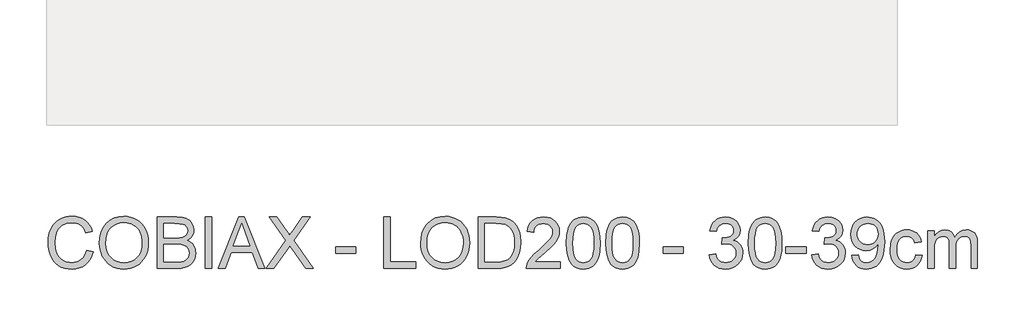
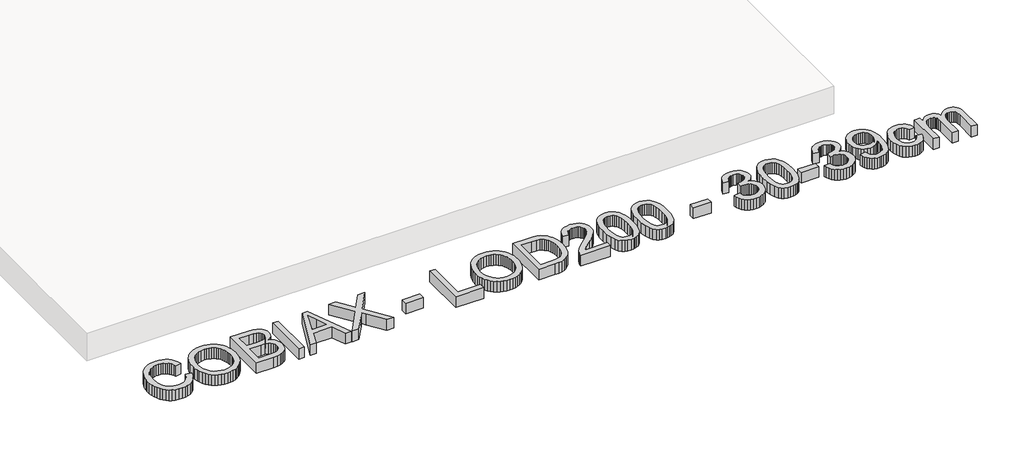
# One storey, part 3 of 6: 1 proxy.
"""IFC4 building model written with IfcOpenShell, lengths in millimetres."""

from ifc_helpers import new_model, si_unit, origin, origin_with_axes, place, context, project, spatial, polyline, outline, extrude, element, save

model = new_model("IFC4")

# Units and contexts
model_context = context("Model", 3, world=origin())
ifc_project = project(units=[si_unit("LENGTHUNIT", "METRE", prefix="MILLI")], contexts=[model_context])

# Site, building, storey
site = spatial("IfcSite", under=ifc_project)
building = spatial("IfcBuilding", under=site)
storey = spatial("IfcBuildingStorey", under=building, Name="COBIAX Slabs", Elevation=0.0)

# Proxy
placement = place(None, origin())
element("IfcBuildingElementProxy", 1, Name="600mm Arial", ObjectType="600mm Arial", at=placement, inside=storey, context=model_context, shape_type="SweptSolid", body=[
    extrude(outline(polyline([(9798.2153953, -6620.9127725), (9873.5576279, -6640.3369419), (9858.64921, -6687.1913125), (9838.7927794, -6728.13198), (9813.9883358, -6763.1589445), (9784.2358795, -6792.2722059), (9750.2067949, -6815.1590645), (9712.5724668, -6831.5068207), (9671.3328952, -6841.3154744), (9626.4880799, -6844.5850256), (9580.5442173, -6842.1110192), (9539.097712, -6834.6889999), (9502.1485641, -6822.3189678), (9469.6967736, -6805.0009229), (9441.2962836, -6782.9923826), (9416.5010371, -6756.5508642), (9395.3110342, -6725.6763677), (9377.7262748, -6690.3688932), (9363.9169044, -6652.155151), (9354.0530684, -6612.5618512), (9348.1347668, -6571.588994), (9346.1619996, -6529.2365793), (9348.3922842, -6483.7939559), (9355.083138, -6441.3495707), (9366.234561, -6401.9034238), (9381.8465531, -6365.4555151), (9401.5696266, -6332.6082514), (9425.0542935, -6303.9640396), (9452.3005538, -6279.5228795), (9483.3084074, -6259.2847713), (9517.0247923, -6243.4152617), (9552.3966461, -6232.0798977), (9589.4239689, -6225.2786793), (9628.1067607, -6223.0116065), (9671.1995379, -6225.9454655), (9710.7146627, -6234.7470422), (9746.6521351, -6249.4163368), (9779.0119551, -6269.9533491), (9807.2606938, -6295.8154534), (9830.8649224, -6326.4600236), (9849.8246407, -6361.8870597), (9864.1398488, -6402.0965618), (9788.7976162, -6420.0492032), (9776.9334219, -6390.420907), (9762.6779946, -6365.1060272), (9746.0313343, -6344.1045638), (9726.993441, -6327.4165168), (9705.4539502, -6314.7015953), (9681.3024972, -6305.6195086), (9654.5390821, -6300.1702565), (9625.1637048, -6298.3538392), (9591.3645465, -6300.3679931), (9560.4532618, -6306.4104549), (9532.4298508, -6316.4812245), (9507.2943135, -6330.5803019), (9485.3639481, -6348.0730908), (9466.9560527, -6368.3249946), (9452.0706275, -6391.3360134), (9440.7076724, -6417.1061472), (9426.3050923, -6472.2516583), (9421.5042322, -6529.0894265), (9427.1880091, -6598.6927), (9434.2927301, -6629.9626696), (9444.2393395, -6658.8781944), (9457.1887858, -6684.8644589), (9473.3020171, -6707.3466473), (9492.5790337, -6726.3247597), (9515.0198354, -6741.7987961), (9539.5345719, -6753.8055448), (9565.0333926, -6762.3817938), (9591.5162978, -6767.5275432), (9618.9832872, -6769.242793), (9651.7385804, -6766.9067423), (9681.8727143, -6759.8985903), (9709.385689, -6748.218337), (9734.2775045, -6731.8659823), (9755.9595496, -6710.9151027), (9773.8432131, -6685.4392745), (9787.928495, -6655.4384978), (9798.2153953, -6620.9127725)])), origin_with_axes(), (0.0, 0.0, 1.0), 150.0),
    extrude(outline(polyline([(9948.8998605, -6541.7445672), (9953.9214497, -6471.0468447), (9968.9862175, -6408.4609203), (9994.0941636, -6353.9867939), (10010.4143286, -6329.7916549), (10029.2452883, -6307.6244654), (10072.3334669, -6270.6063397), (10121.2525753, -6244.1648213), (10176.0026132, -6228.2999102), (10236.5835807, -6223.0116065), (10277.1333737, -6225.49481), (10315.6414215, -6232.9444204), (10352.1077243, -6245.3604378), (10386.532282, -6262.742862), (10417.9494044, -6284.5674614), (10445.3934012, -6310.310004), (10468.8642725, -6339.9704899), (10488.3620182, -6373.548919), (10503.6843033, -6410.2819362), (10514.6287927, -6449.4061864), (10521.1954863, -6490.9216695), (10523.3843842, -6534.8283857), (10521.0805232, -6579.3145159), (10514.1689402, -6621.3910191), (10502.6496352, -6661.0578953), (10486.5226083, -6698.3151443), (10466.1695369, -6732.178682), (10441.9720986, -6761.6644239), (10413.9302936, -6786.7723701), (10382.0441216, -6807.5025205), (10347.5689802, -6823.7261165), (10311.7602665, -6835.3143993), (10274.6179805, -6842.267369), (10236.1421223, -6844.5850256), (10194.8841566, -6842.0236472), (10155.870271, -6834.339512), (10119.1004656, -6821.5326201), (10084.5747403, -6803.6029713), (10053.1944061, -6781.2449431), (10025.8607739, -6755.1529126), (10002.5738436, -6725.3268798), (9983.3336153, -6691.7668448), (9968.2688476, -6655.8201753), (9957.5082992, -6618.8342393), (9951.0519702, -6580.8090365), (9948.8998605, -6541.7445672)]), holes=[polyline([(10024.2420931, -6542.4803312), (10028.0082851, -6592.4295091), (10039.3068608, -6636.7684865), (10058.1378205, -6675.4972636), (10084.5011639, -6708.6158402), (10116.5482842, -6735.140132), (10152.4305743, -6754.0860548), (10192.1480343, -6765.4536084), (10235.700664, -6769.242793), (10279.9982547, -6765.4168202), (10320.1847641, -6753.938902), (10356.2601923, -6734.8090382), (10388.2245392, -6708.027229), (10414.3947446, -6674.2096766), (10433.0877485, -6633.9725834), (10444.3035508, -6587.3159493), (10448.0421516, -6534.2397745), (10446.4418649, -6499.7600345), (10441.6410049, -6467.5427687), (10433.6395715, -6437.5879773), (10422.4375647, -6409.8956601), (10408.1591448, -6384.8291007), (10390.9284718, -6362.7515824), (10370.7455459, -6343.6631054), (10347.6103669, -6327.5636696), (10322.2403048, -6314.7843688), (10295.3527295, -6305.6562968), (10266.9476409, -6300.1794536), (10237.0250391, -6298.3538392), (10194.9853241, -6301.8717107), (10155.9806356, -6312.4253255), (10120.0109735, -6330.0146834), (10087.0763379, -6354.6397844), (10059.5863558, -6387.4870481), (10039.9506543, -6429.7428937), (10028.1692334, -6481.4073214), (10024.2420931, -6542.4803312)])]), origin_with_axes(), (0.0, 0.0, 1.0), 150.0),
    extrude(outline(polyline([(10626.979954, -6835.1672465), (10626.979954, -6232.4293856), (10856.9797774, -6232.4293856), (10920.2370865, -6236.8623637), (10969.6252443, -6250.1612978), (10989.7024042, -6260.2182718), (11007.4803016, -6272.6572818), (11022.9589366, -6287.4783277), (11036.1383091, -6304.6814095), (11054.1829209, -6342.3525258), (11060.1977915, -6381.7894757), (11055.1394141, -6418.0810345), (11039.9642818, -6452.2020895), (11014.56203, -6482.0557135), (10978.8222942, -6505.5449788), (11001.562, -6515.2386694), (11021.5149998, -6527.8386278), (11038.6812934, -6543.3448538), (11053.0608808, -6561.7573477), (11064.423836, -6582.5150893), (11072.5402325, -6605.0570585), (11077.4100704, -6629.3832555), (11079.0333497, -6655.4936801), (11074.6003717, -6697.524198), (11061.3014375, -6736.5012954), (11041.4542039, -6769.6474632), (11017.3763273, -6794.1851923), (10987.8905854, -6811.9538926), (10951.8197558, -6824.7929743), (10907.986616, -6832.5736785), (10855.2139438, -6835.1672465), (10626.979954, -6835.1672465)]), holes=[polyline([(10702.3221866, -6477.2916416), (10839.9100528, -6477.2916416), (10888.0290178, -6475.6729608), (10920.2554806, -6470.8169185), (10948.3800591, -6459.6516999), (10968.5951747, -6442.9314633), (10980.7904629, -6420.9137259), (10984.8555589, -6393.8560051), (10981.0663744, -6367.5892307), (10969.6988207, -6344.7069706), (10951.2679328, -6326.8462997), (10926.2887453, -6315.6442929), (10887.9554414, -6309.7397869), (10829.4622042, -6307.7716182), (10702.3221866, -6307.7716182), (10702.3221866, -6477.2916416)]), polyline([(10702.3221866, -6759.8250139), (10856.8326246, -6759.8250139), (10912.7506879, -6756.8819579), (10938.7047626, -6750.3520525), (10960.0603125, -6740.474421), (10977.4243426, -6726.3293582), (10991.4038584, -6706.9971594), (11000.6193024, -6683.3423471), (11003.6911171, -6656.2294441), (11000.0858735, -6624.7387453), (10989.2701429, -6597.6626304), (10970.3794024, -6576.4910216), (10942.5491295, -6562.7138409), (10903.1305737, -6555.1538659), (10849.4749847, -6552.6338742), (10702.3221866, -6552.6338742), (10702.3221866, -6759.8250139)])]), origin_with_axes(), (0.0, 0.0, 1.0), 150.0),
    extrude(outline(polyline([(11192.0466986, -6835.1672465), (11192.0466986, -6232.4293856), (11267.3889312, -6232.4293856), (11267.3889312, -6835.1672465), (11192.0466986, -6835.1672465)])), origin_with_axes(), (0.0, 0.0, 1.0), 150.0),
    extrude(outline(polyline([(11347.8815118, -6835.1672465), (11588.4763366, -6232.4293856), (11652.6349566, -6232.4293856), (11893.2297814, -6835.1672465), (11813.6201177, -6835.1672465), (11744.6054554, -6646.811665), (11496.358685, -6646.811665), (11427.4911755, -6835.1672465), (11347.8815118, -6835.1672465)]), holes=[polyline([(11524.0234111, -6571.4694324), (11717.0878821, -6571.4694324), (11662.7884996, -6423.2865647), (11620.5556466, -6307.7716182), (11583.0316831, -6410.3371185), (11524.0234111, -6571.4694324)])]), origin_with_axes(), (0.0, 0.0, 1.0), 150.0),
    extrude(outline(polyline([(11907.7979084, -6835.1672465), (12140.1521766, -6506.7222012), (11945.4690247, -6232.4293856), (12035.8208428, -6232.4293856), (12145.4496773, -6386.7926708), (12171.6060872, -6425.8985269), (12182.3850296, -6446.9781652), (12225.6479523, -6385.7626012), (12334.0995644, -6232.4293856), (12425.7757576, -6232.4293856), (12231.0926058, -6507.605118), (12463.4468739, -6835.1672465), (12373.0950559, -6835.1672465), (12218.2903124, -6616.7924942), (12186.0638496, -6571.4694324), (12150.6000252, -6621.2070781), (11999.4741016, -6835.1672465), (11907.7979084, -6835.1672465)])), origin_with_axes(), (0.0, 0.0, 1.0), 150.0),
    extrude(outline(polyline([(12727.1446881, -6656.2294441), (12727.1446881, -6580.8872115), (12962.589165, -6580.8872115), (12962.589165, -6656.2294441), (12727.1446881, -6656.2294441)])), origin_with_axes(), (0.0, 0.0, 1.0), 150.0),
    extrude(outline(polyline([(13292.2114327, -6835.1672465), (13292.2114327, -6232.4293856), (13367.5536653, -6232.4293856), (13367.5536653, -6759.8250139), (13668.9225957, -6759.8250139), (13668.9225957, -6835.1672465), (13292.2114327, -6835.1672465)])), origin_with_axes(), (0.0, 0.0, 1.0), 150.0),
    extrude(outline(polyline([(13725.4292702, -6541.7445672), (13730.4508594, -6471.0468447), (13745.5156271, -6408.4609203), (13770.6235733, -6353.9867939), (13786.9437383, -6329.7916549), (13805.7746979, -6307.6244654), (13848.8628766, -6270.6063397), (13897.7819849, -6244.1648213), (13952.5320229, -6228.2999102), (14013.1129904, -6223.0116065), (14053.6627833, -6225.49481), (14092.1708312, -6232.9444204), (14128.637134, -6245.3604378), (14163.0616917, -6262.742862), (14194.4788141, -6284.5674614), (14221.9228109, -6310.310004), (14245.3936822, -6339.9704899), (14264.8914279, -6373.548919), (14280.213713, -6410.2819362), (14291.1582024, -6449.4061864), (14297.724896, -6490.9216695), (14299.9137939, -6534.8283857), (14297.6099329, -6579.3145159), (14290.6983499, -6621.3910191), (14279.1790449, -6661.0578953), (14263.052018, -6698.3151443), (14242.6989466, -6732.178682), (14218.5015083, -6761.6644239), (14190.4597033, -6786.7723701), (14158.5735313, -6807.5025205), (14124.0983898, -6823.7261165), (14088.2896761, -6835.3143993), (14051.1473902, -6842.267369), (14012.671532, -6844.5850256), (13971.4135663, -6842.0236472), (13932.3996807, -6834.339512), (13895.6298753, -6821.5326201), (13861.10415, -6803.6029713), (13829.7238158, -6781.2449431), (13802.3901836, -6755.1529126), (13779.1032533, -6725.3268798), (13759.8630249, -6691.7668448), (13744.7982572, -6655.8201753), (13734.0377089, -6618.8342393), (13727.5813799, -6580.8090365), (13725.4292702, -6541.7445672)]), holes=[polyline([(13800.7715028, -6542.4803312), (13804.5376947, -6592.4295091), (13815.8362705, -6636.7684865), (13834.6672301, -6675.4972636), (13861.0305736, -6708.6158402), (13893.0776939, -6735.140132), (13928.959984, -6754.0860548), (13968.6774439, -6765.4536084), (14012.2300736, -6769.242793), (14056.5276644, -6765.4168202), (14096.7141738, -6753.938902), (14132.789602, -6734.8090382), (14164.7539488, -6708.027229), (14190.9241543, -6674.2096766), (14209.6171582, -6633.9725834), (14220.8329605, -6587.3159493), (14224.5715613, -6534.2397745), (14222.9712746, -6499.7600345), (14218.1704145, -6467.5427687), (14210.1689811, -6437.5879773), (14198.9669744, -6409.8956601), (14184.6885545, -6384.8291007), (14167.4578815, -6362.7515824), (14147.2749555, -6343.6631054), (14124.1397766, -6327.5636696), (14098.7697145, -6314.7843688), (14071.8821392, -6305.6562968), (14043.4770506, -6300.1794536), (14013.5544488, -6298.3538392), (13971.5147338, -6301.8717107), (13932.5100453, -6312.4253255), (13896.5403832, -6330.0146834), (13863.6057476, -6354.6397844), (13836.1157655, -6387.4870481), (13816.480064, -6429.7428937), (13804.6986431, -6481.4073214), (13800.7715028, -6542.4803312)])]), origin_with_axes(), (0.0, 0.0, 1.0), 150.0),
    extrude(outline(polyline([(14403.5093637, -6835.1672465), (14403.5093637, -6232.4293856), (14611.4362674, -6232.4293856), (14673.5715364, -6234.5998894), (14719.0049628, -6241.1114007), (14767.0503513, -6257.8500315), (14807.5909472, -6284.2271705), (14829.9305814, -6305.7850555), (14849.2719773, -6330.1388435), (14865.6151349, -6357.2885348), (14878.9600543, -6387.2341292), (14889.3251295, -6419.6997153), (14896.7287546, -6454.4093815), (14902.6516548, -6530.5609545), (14898.641741, -6595.2530034), (14886.6119998, -6652.1827421), (14868.2914764, -6700.651195), (14845.4092163, -6739.9593862), (14819.0688655, -6770.9902325), (14790.3740698, -6794.6266507), (14757.4302372, -6812.1562277), (14718.3427752, -6824.8665507), (14673.0381075, -6832.5920726), (14621.4426577, -6835.1672465), (14403.5093637, -6835.1672465)]), holes=[polyline([(14478.8515963, -6759.8250139), (14612.1720314, -6759.8250139), (14667.3175425, -6757.1026871), (14709.1457253, -6748.9357069), (14740.7100005, -6735.8023196), (14765.0637886, -6718.1807721), (14791.2385925, -6685.5680332), (14810.9018852, -6643.3535742), (14823.2075379, -6591.3534542), (14827.3094222, -6529.3837321), (14825.2998668, -6485.6425629), (14819.2712006, -6447.2724708), (14809.2234236, -6414.2734558), (14795.1565358, -6386.645518), (14778.2109714, -6363.7632579), (14759.5271645, -6345.0012761), (14739.1051153, -6330.3595727), (14716.9448236, -6319.8381477), (14673.6083246, -6310.7882506), (14610.1118922, -6307.7716182), (14478.8515963, -6307.7716182), (14478.8515963, -6759.8250139)])]), origin_with_axes(), (0.0, 0.0, 1.0), 150.0),
    extrude(outline(polyline([(15364.1228295, -6759.8250139), (15364.1228295, -6835.1672465), (14968.5761083, -6835.1672465), (14970.2315773, -6808.6429547), (14976.6695122, -6783.2223088), (14995.247553, -6742.6265306), (15022.4340324, -6703.2447631), (15061.7606177, -6662.0235855), (15116.758976, -6615.9095774), (15198.0608969, -6543.6943417), (15246.8420495, -6490.3882406), (15261.0698856, -6468.6096265), (15271.2326257, -6447.125318), (15277.3302698, -6425.9353151), (15279.3628178, -6405.0396178), (15277.4452329, -6385.3809236), (15271.6924782, -6367.3133192), (15262.1045537, -6350.8368043), (15248.6814594, -6335.9513791), (15232.1681564, -6323.6227337), (15213.3096056, -6314.8165584), (15192.1058071, -6309.5328533), (15168.5567609, -6307.7716182), (15143.7477188, -6309.4914666), (15121.559836, -6314.6510115), (15101.9931124, -6323.2502532), (15085.047548, -6335.2891915), (15071.3393451, -6350.3631562), (15061.4847062, -6368.0674772), (15055.4836311, -6388.4021545), (15053.33612, -6411.3671881), (14977.9938874, -6401.949409), (14984.473209, -6363.0550851), (14996.2592284, -6329.0719858), (15013.3519456, -6300.0001111), (15035.7513606, -6275.8394611), (15062.9424386, -6256.8475531), (15094.4101448, -6243.2819045), (15130.1544791, -6235.1425153), (15170.1754417, -6232.4293856), (15210.5550892, -6235.446018), (15246.4925616, -6244.4959151), (15277.9878589, -6259.5790769), (15305.0409811, -6280.6955034), (15326.7690114, -6306.2816962), (15342.2890331, -6334.7741567), (15351.6010461, -6366.172885), (15354.7050504, -6400.477881), (15351.3573243, -6436.5119224), (15341.3141458, -6471.9205645), (15323.4902631, -6507.9362118), (15296.8004244, -6545.7912691), (15254.2548717, -6590.9855722), (15188.863847, -6649.018957), (15102.190849, -6721.49171), (15068.1985526, -6759.8250139), (15364.1228295, -6759.8250139)])), origin_with_axes(), (0.0, 0.0, 1.0), 150.0),
    extrude(outline(polyline([(15439.4650621, -6538.6543584), (15445.0016862, -6442.1773052), (15451.9224662, -6401.2642288), (15461.6115582, -6365.2347859), (15474.0275756, -6333.7946709), (15489.1291315, -6306.6495782), (15506.9162259, -6283.7995077), (15527.388859, -6265.2444596), (15550.6160084, -6250.8878647), (15576.6666522, -6240.6331541), (15605.5407903, -6234.4803277), (15637.2384227, -6232.4293856), (15683.6651305, -6237.285428), (15725.235796, -6251.853555), (15760.0006445, -6275.5635496), (15786.0099016, -6307.8451946), (15805.6548001, -6348.4225787), (15821.3265731, -6397.0197903), (15831.5904808, -6458.731995), (15835.0117833, -6538.6543584), (15829.5303416, -6634.5795887), (15822.6785395, -6675.3547093), (15813.0860164, -6711.3381669), (15800.7665681, -6742.7920775), (15785.7339901, -6769.978557), (15767.9882823, -6792.8976053), (15747.5294449, -6811.5492224), (15724.2747043, -6826.0023863), (15698.141287, -6836.3260748), (15669.1291932, -6842.5202879), (15637.2384227, -6844.5850256), (15595.7413337, -6840.9981761), (15558.9531342, -6830.2376278), (15526.8738242, -6812.3033805), (15499.5034037, -6787.1954344), (15473.2366293, -6741.8079932), (15454.4746475, -6685.2553335), (15443.2174585, -6617.5374552), (15439.4650621, -6538.6543584)]), holes=[polyline([(15514.8072947, -6538.5072056), (15517.0145867, -6604.0039963), (15523.6364626, -6657.0203904), (15534.6729225, -6697.5563877), (15550.1239663, -6725.6119884), (15568.8123716, -6744.7004654), (15589.5609162, -6758.3350918), (15612.3695999, -6766.5158677), (15637.2384227, -6769.242793), (15662.1072456, -6766.5066706), (15684.9159293, -6758.2983036), (15705.6644738, -6744.6176919), (15724.3528792, -6725.4648356), (15739.803923, -6697.3632497), (15750.8403828, -6656.8364494), (15757.4622588, -6603.8844347), (15759.6695507, -6538.5072056), (15757.5358352, -6474.7440588), (15751.1346884, -6422.6611653), (15740.4661106, -6382.2585252), (15725.5301016, -6353.5361384), (15707.1543959, -6333.5141608), (15686.1667281, -6319.2127483), (15662.5670981, -6310.6319007), (15636.3555059, -6307.7716182), (15611.6154418, -6310.2916099), (15589.1930342, -6317.8515849), (15569.0882831, -6330.4515432), (15551.3011887, -6348.0914849), (15535.3351101, -6379.3614545), (15523.9307682, -6421.5207311), (15517.0881631, -6474.5693149), (15514.8072947, -6538.5072056)])]), origin_with_axes(), (0.0, 0.0, 1.0), 150.0),
    extrude(outline(polyline([(15900.9362369, -6538.6543584), (15906.4728609, -6442.1773052), (15913.3936409, -6401.2642288), (15923.082733, -6365.2347859), (15935.4987503, -6333.7946709), (15950.6003062, -6306.6495782), (15968.3874007, -6283.7995077), (15988.8600337, -6265.2444596), (16012.0871832, -6250.8878647), (16038.137827, -6240.6331541), (16067.0119651, -6234.4803277), (16098.7095975, -6232.4293856), (16145.1363053, -6237.285428), (16186.7069707, -6251.853555), (16221.4718193, -6275.5635496), (16247.4810763, -6307.8451946), (16267.1259749, -6348.4225787), (16282.7977479, -6397.0197903), (16293.0616555, -6458.731995), (16296.4829581, -6538.6543584), (16291.0015164, -6634.5795887), (16284.1497142, -6675.3547093), (16274.5571912, -6711.3381669), (16262.2377429, -6742.7920775), (16247.2051648, -6769.978557), (16229.4594571, -6792.8976053), (16209.0006196, -6811.5492224), (16185.745879, -6826.0023863), (16159.6124618, -6836.3260748), (16130.6003679, -6842.5202879), (16098.7095975, -6844.5850256), (16057.2125084, -6840.9981761), (16020.4243089, -6830.2376278), (15988.3449989, -6812.3033805), (15960.9745785, -6787.1954344), (15934.707804, -6741.8079932), (15915.9458223, -6685.2553335), (15904.6886332, -6617.5374552), (15900.9362369, -6538.6543584)]), holes=[polyline([(15976.2784695, -6538.5072056), (15978.4857615, -6604.0039963), (15985.1076374, -6657.0203904), (15996.1440972, -6697.5563877), (16011.595141, -6725.6119884), (16030.2835464, -6744.7004654), (16051.0320909, -6758.3350918), (16073.8407746, -6766.5158677), (16098.7095975, -6769.242793), (16123.5784204, -6766.5066706), (16146.3871041, -6758.2983036), (16167.1356486, -6744.6176919), (16185.8240539, -6725.4648356), (16201.2750977, -6697.3632497), (16212.3115576, -6656.8364494), (16218.9334335, -6603.8844347), (16221.1407255, -6538.5072056), (16219.0070099, -6474.7440588), (16212.6058632, -6422.6611653), (16201.9372853, -6382.2585252), (16187.0012763, -6353.5361384), (16168.6255707, -6333.5141608), (16147.6379028, -6319.2127483), (16124.0382729, -6310.6319007), (16097.8266807, -6307.7716182), (16073.0866165, -6310.2916099), (16050.6642089, -6317.8515849), (16030.5594579, -6330.4515432), (16012.7723634, -6348.0914849), (15996.8062848, -6379.3614545), (15985.401943, -6421.5207311), (15978.5593379, -6474.5693149), (15976.2784695, -6538.5072056)])]), origin_with_axes(), (0.0, 0.0, 1.0), 150.0),
    extrude(outline(polyline([(16579.0163304, -6656.2294441), (16579.0163304, -6580.8872115), (16814.4608073, -6580.8872115), (16814.4608073, -6656.2294441), (16579.0163304, -6656.2294441)])), origin_with_axes(), (0.0, 0.0, 1.0), 150.0),
    extrude(outline(polyline([(17115.8297378, -6675.0650022), (17191.1719704, -6665.6472231), (17208.0393598, -6712.9936359), (17219.411512, -6730.900292), (17232.7426358, -6744.9625813), (17248.3362339, -6755.5851739), (17266.4958089, -6763.1727401), (17287.2213608, -6767.7252798), (17310.5128896, -6769.242793), (17337.8097336, -6767.1550627), (17362.1635217, -6760.8918717), (17383.5742538, -6750.4532201), (17402.04193, -6735.8391078), (17416.9135597, -6718.1439839), (17427.5361523, -6698.4622971), (17433.9097078, -6676.7940476), (17436.0342264, -6653.1392353), (17433.9281019, -6630.6110616), (17427.6097287, -6610.115436), (17417.0791066, -6591.6523583), (17402.3362356, -6575.2218287), (17384.346806, -6561.7343551), (17364.0765081, -6552.1004453), (17341.5253418, -6546.3200995), (17316.6933071, -6544.3933175), (17292.891342, -6546.4534567), (17263.8654526, -6552.6338742), (17272.2531621, -6477.2916416), (17284.3196915, -6478.1745584), (17329.4588123, -6472.7666931), (17369.8154672, -6456.5430971), (17386.4253393, -6444.2742325), (17398.2895336, -6429.0991002), (17405.4080503, -6411.0177002), (17407.7808891, -6390.0300324), (17406.0610408, -6372.9924975), (17400.9014958, -6357.4908699), (17392.3022542, -6343.5251496), (17380.2633159, -6331.0953367), (17365.5112479, -6320.8912099), (17348.7726171, -6313.6025479), (17309.3356672, -6307.7716182), (17288.6790932, -6309.2431462), (17269.8251409, -6313.6577302), (17252.7738105, -6321.0153701), (17237.5251018, -6331.3160659), (17224.4560939, -6344.5598178), (17213.9438659, -6360.7466255), (17205.9884177, -6379.8764893), (17200.5897494, -6401.949409), (17125.2475168, -6392.5316299), (17134.1778523, -6356.5619678), (17147.4308011, -6324.878131), (17165.0063635, -6297.4801194), (17186.9045392, -6274.3679331), (17212.4355497, -6256.0198186), (17240.9096161, -6242.9140225), (17272.3267385, -6235.0505448), (17306.6869168, -6232.4293856), (17354.0517237, -6237.5981277), (17397.5537697, -6253.1043538), (17434.2316046, -6277.5685064), (17461.1237784, -6309.6110282), (17477.6232859, -6346.5279864), (17483.1231217, -6385.6154484), (17477.8991974, -6422.0357659), (17462.2274244, -6455.0715691), (17436.3285319, -6483.2145417), (17400.4232492, -6504.9563677), (17425.5311954, -6512.8106482), (17447.585721, -6524.012655), (17466.5868261, -6538.5623879), (17482.5345105, -6556.459847), (17495.152863, -6577.2635738), (17504.1659719, -6600.53211), (17509.5738372, -6626.2654556), (17511.376459, -6654.4636105), (17507.7712154, -6692.6865498), (17496.9554848, -6727.8928567), (17478.929267, -6760.0825313), (17453.6925621, -6789.2555735), (17422.9468244, -6813.4622088), (17388.393508, -6830.7526626), (17350.0326129, -6841.1269348), (17307.8641392, -6844.5850256), (17269.7515645, -6841.6327726), (17235.0235042, -6832.7760136), (17203.6799582, -6818.0147485), (17175.7209266, -6797.3489774), (17152.2776464, -6771.9927109), (17134.4813549, -6743.1599595), (17122.332052, -6710.8507233), (17115.8297378, -6675.0650022)])), origin_with_axes(), (0.0, 0.0, 1.0), 150.0),
    extrude(outline(polyline([(17577.3009125, -6538.6543584), (17582.8375365, -6442.1773052), (17589.7583166, -6401.2642288), (17599.4474086, -6365.2347859), (17611.8634259, -6333.7946709), (17626.9649818, -6306.6495782), (17644.7520763, -6283.7995077), (17665.2247093, -6265.2444596), (17688.4518588, -6250.8878647), (17714.5025026, -6240.6331541), (17743.3766407, -6234.4803277), (17775.0742731, -6232.4293856), (17821.5009809, -6237.285428), (17863.0716464, -6251.853555), (17897.8364949, -6275.5635496), (17923.845752, -6307.8451946), (17943.4906505, -6348.4225787), (17959.1624235, -6397.0197903), (17969.4263312, -6458.731995), (17972.8476337, -6538.6543584), (17967.366192, -6634.5795887), (17960.5143898, -6675.3547093), (17950.9218668, -6711.3381669), (17938.6024185, -6742.7920775), (17923.5698405, -6769.978557), (17905.8241327, -6792.8976053), (17885.3652953, -6811.5492224), (17862.1105546, -6826.0023863), (17835.9771374, -6836.3260748), (17806.9650436, -6842.5202879), (17775.0742731, -6844.5850256), (17733.5771841, -6840.9981761), (17696.7889845, -6830.2376278), (17664.7096746, -6812.3033805), (17637.3392541, -6787.1954344), (17611.0724797, -6741.8079932), (17592.3104979, -6685.2553335), (17581.0533089, -6617.5374552), (17577.3009125, -6538.6543584)]), holes=[polyline([(17652.6431451, -6538.5072056), (17654.8504371, -6604.0039963), (17661.472313, -6657.0203904), (17672.5087729, -6697.5563877), (17687.9598166, -6725.6119884), (17706.648222, -6744.7004654), (17727.3967665, -6758.3350918), (17750.2054502, -6766.5158677), (17775.0742731, -6769.242793), (17799.943096, -6766.5066706), (17822.7517797, -6758.2983036), (17843.5003242, -6744.6176919), (17862.1887296, -6725.4648356), (17877.6397734, -6697.3632497), (17888.6762332, -6656.8364494), (17895.2981091, -6603.8844347), (17897.5054011, -6538.5072056), (17895.3716855, -6474.7440588), (17888.9705388, -6422.6611653), (17878.301961, -6382.2585252), (17863.3659519, -6353.5361384), (17844.9902463, -6333.5141608), (17824.0025785, -6319.2127483), (17800.4029485, -6310.6319007), (17774.1913563, -6307.7716182), (17749.4512921, -6310.2916099), (17727.0288845, -6317.8515849), (17706.9241335, -6330.4515432), (17689.137039, -6348.0914849), (17673.1709604, -6379.3614545), (17661.7666186, -6421.5207311), (17654.9240135, -6474.5693149), (17652.6431451, -6538.5072056)])]), origin_with_axes(), (0.0, 0.0, 1.0), 150.0),
    extrude(outline(polyline([(18019.9365291, -6656.2294441), (18019.9365291, -6580.8872115), (18255.381006, -6580.8872115), (18255.381006, -6656.2294441), (18019.9365291, -6656.2294441)])), origin_with_axes(), (0.0, 0.0, 1.0), 150.0),
    extrude(outline(polyline([(18321.3054595, -6675.0650022), (18396.6476922, -6665.6472231), (18413.5150816, -6712.9936359), (18424.8872338, -6730.900292), (18438.2183576, -6744.9625813), (18453.8119557, -6755.5851739), (18471.9715307, -6763.1727401), (18492.6970826, -6767.7252798), (18515.9886114, -6769.242793), (18543.2854554, -6767.1550627), (18567.6392435, -6760.8918717), (18589.0499756, -6750.4532201), (18607.5176518, -6735.8391078), (18622.3892814, -6718.1439839), (18633.0118741, -6698.4622971), (18639.3854296, -6676.7940476), (18641.5099481, -6653.1392353), (18639.4038237, -6630.6110616), (18633.0854505, -6610.115436), (18622.5548283, -6591.6523583), (18607.8119574, -6575.2218287), (18589.8225278, -6561.7343551), (18569.5522299, -6552.1004453), (18547.0010636, -6546.3200995), (18522.1690289, -6544.3933175), (18498.3670638, -6546.4534567), (18469.3411744, -6552.6338742), (18477.7288839, -6477.2916416), (18489.7954133, -6478.1745584), (18534.9345341, -6472.7666931), (18575.291189, -6456.5430971), (18591.9010611, -6444.2742325), (18603.7652554, -6429.0991002), (18610.883772, -6411.0177002), (18613.2566109, -6390.0300324), (18611.5367626, -6372.9924975), (18606.3772176, -6357.4908699), (18597.777976, -6343.5251496), (18585.7390377, -6331.0953367), (18570.9869697, -6320.8912099), (18554.2483389, -6313.6025479), (18514.811389, -6307.7716182), (18494.154815, -6309.2431462), (18475.3008627, -6313.6577302), (18458.2495323, -6321.0153701), (18443.0008236, -6331.3160659), (18429.9318157, -6344.5598178), (18419.4195877, -6360.7466255), (18411.4641395, -6379.8764893), (18406.0654712, -6401.949409), (18330.7232386, -6392.5316299), (18339.6535741, -6356.5619678), (18352.9065229, -6324.878131), (18370.4820853, -6297.4801194), (18392.380261, -6274.3679331), (18417.9112715, -6256.0198186), (18446.3853379, -6242.9140225), (18477.8024603, -6235.0505448), (18512.1626386, -6232.4293856), (18559.5274455, -6237.5981277), (18603.0294915, -6253.1043538), (18639.7073264, -6277.5685064), (18666.5995002, -6309.6110282), (18683.0990077, -6346.5279864), (18688.5988435, -6385.6154484), (18683.3749192, -6422.0357659), (18667.7031462, -6455.0715691), (18641.8042537, -6483.2145417), (18605.898971, -6504.9563677), (18631.0069172, -6512.8106482), (18653.0614428, -6524.012655), (18672.0625478, -6538.5623879), (18688.0102323, -6556.459847), (18700.6285848, -6577.2635738), (18709.6416937, -6600.53211), (18715.049559, -6626.2654556), (18716.8521808, -6654.4636105), (18713.2469372, -6692.6865498), (18702.4312065, -6727.8928567), (18684.4049888, -6760.0825313), (18659.1682839, -6789.2555735), (18628.4225462, -6813.4622088), (18593.8692298, -6830.7526626), (18555.5083347, -6841.1269348), (18513.339861, -6844.5850256), (18475.2272863, -6841.6327726), (18440.499226, -6832.7760136), (18409.15568, -6818.0147485), (18381.1966484, -6797.3489774), (18357.7533682, -6771.9927109), (18339.9570767, -6743.1599595), (18327.8077738, -6710.8507233), (18321.3054595, -6675.0650022)])), origin_with_axes(), (0.0, 0.0, 1.0), 150.0),
    extrude(outline(polyline([(18792.1944134, -6684.4827813), (18867.536646, -6675.0650022), (18880.4125158, -6717.8312842), (18889.8854772, -6734.0962669), (18901.3817895, -6746.9491441), (18914.7726942, -6756.7026155), (18929.9294324, -6763.6693808), (18965.5404095, -6769.242793), (18997.4909608, -6765.6559435), (19026.5352443, -6754.8953952), (19050.6683032, -6738.1383703), (19067.8851806, -6716.5620913), (19080.9265973, -6688.1983894), (19092.5332742, -6651.0790961), (19100.7002545, -6608.4783611), (19103.4225813, -6563.6703341), (19102.9811229, -6548.9550543), (19076.8798953, -6580.8136351), (19042.7220521, -6606.0503399), (19002.9724025, -6622.4946651), (18960.095756, -6627.9761068), (18924.3054364, -6624.6283807), (18891.3937934, -6614.5852022), (18861.360827, -6597.8465714), (18834.2065372, -6574.4124883), (18811.7059547, -6545.5061606), (18795.63411, -6512.3507958), (18785.9910032, -6474.9463939), (18782.7766343, -6433.292955), (18786.1473531, -6390.2507616), (18796.2595094, -6351.6231521), (18813.1131033, -6317.4101265), (18836.7081348, -6287.6116849), (18865.3799378, -6263.469429), (18897.4638463, -6246.2249604), (18932.9598603, -6235.8782793), (18971.8679798, -6232.4293856), (19000.5949651, -6234.3975543), (19028.0619546, -6240.3020603), (19054.2689482, -6250.1429037), (19079.215946, -6263.9200844), (19102.070615, -6281.3392969), (19122.000622, -6302.1062355), (19139.0059673, -6326.2209003), (19153.0866506, -6353.6832912), (19164.127709, -6386.0753009), (19172.0141793, -6424.9788219), (19176.7460615, -6470.3938542), (19178.3233555, -6522.3203978), (19176.75066, -6576.8543051), (19172.0325734, -6625.5296916), (19164.1690957, -6668.3465573), (19153.160227, -6705.3049022), (19139.047354, -6737.3060373), (19121.8718633, -6765.2512733), (19101.6337551, -6789.1406104), (19078.3330292, -6808.9740485), (19052.4387353, -6824.553851), (19024.4199228, -6835.6822813), (18994.2765918, -6842.3593395), (18962.0087423, -6844.5850256), (18928.1727958, -6841.9592679), (18897.592605, -6834.0819946), (18870.2681698, -6820.9532059), (18846.1994903, -6802.5729018), (18825.9935717, -6779.4377228), (18810.2574193, -6752.0443097), (18798.9910332, -6720.3926626), (18792.1944134, -6684.4827813)]), holes=[polyline([(19102.9811229, -6431.5271214), (19100.9485749, -6404.524583), (19094.8509308, -6380.4651005), (19084.6881907, -6359.348674), (19070.4603545, -6341.1753034), (19052.8663981, -6326.5611911), (19032.6052972, -6316.1225395), (19009.6770519, -6309.8593486), (18984.0816621, -6307.7716182), (18957.6677348, -6310.0202969), (18933.7554051, -6316.766333), (18912.344673, -6328.0097265), (18893.4355384, -6343.7504774), (18877.9844946, -6363.0688806), (18866.9480348, -6385.0452313), (18860.3261589, -6409.6795294), (18858.1188669, -6436.9717749), (18860.2065972, -6461.4497232), (18866.4697882, -6483.5272414), (18876.9084398, -6503.2043297), (18891.5225521, -6520.4809878), (18909.7051197, -6534.5478756), (18930.8491374, -6544.5956526), (18954.9546051, -6550.6243188), (18982.0215229, -6552.6338742), (19007.2628263, -6550.6243188), (19030.158882, -6544.5956526), (19050.7096899, -6534.5478756), (19068.9152501, -6520.4809878), (19083.8190695, -6502.8640388), (19094.4646547, -6482.1660781), (19100.8520059, -6458.3871056), (19102.9811229, -6431.5271214)])]), origin_with_axes(), (0.0, 0.0, 1.0), 150.0),
    extrude(outline(polyline([(19545.6167395, -6675.0650022), (19620.9589721, -6684.4827813), (19612.7644007, -6720.0339776), (19599.9529102, -6751.4924867), (19582.5245007, -6778.8583086), (19560.4791721, -6802.1314434), (19534.7458265, -6820.7048856), (19506.253366, -6833.97163), (19475.0017905, -6841.9316767), (19440.9911001, -6844.5850256), (19398.7352544, -6840.883213), (19360.8480074, -6829.7777753), (19327.3293591, -6811.2687124), (19298.1793095, -6785.3560244), (19274.5842781, -6752.5271548), (19257.7306842, -6713.2695474), (19247.6185278, -6667.5832021), (19244.247809, -6615.468119), (19250.0051623, -6548.4216254), (19257.2018538, -6518.2507033), (19267.2772219, -6490.3146642), (19280.3002446, -6465.1745284), (19296.3398996, -6443.3913158), (19315.3961869, -6424.9650263), (19337.4691066, -6409.8956601), (19361.5607788, -6398.1786186), (19386.6733235, -6389.8093032), (19412.8067407, -6384.7877139), (19439.9610305, -6383.1138508), (19473.3877083, -6385.4131133), (19503.6230097, -6392.3109007), (19530.6669349, -6403.8072131), (19554.5194838, -6419.9020504), (19574.7759861, -6440.2275306), (19591.0317718, -6464.4157718), (19603.2868408, -6492.4667739), (19611.541193, -6524.380537), (19536.1989604, -6533.7983161), (19522.5321443, -6500.9280598), (19501.2501709, -6477.365218), (19473.5302625, -6463.1833671), (19440.5496417, -6458.4560835), (19414.9496533, -6460.7829371), (19391.8604596, -6467.7634979), (19371.2820605, -6479.397766), (19353.214456, -6495.6857414), (19338.5037747, -6517.004503), (19327.9961452, -6543.7311299), (19321.6915676, -6575.8656222), (19319.5900417, -6613.4079798), (19321.6455823, -6651.515956), (19327.8122042, -6684.0229288), (19338.0899075, -6710.9288982), (19352.478692, -6732.2338643), (19370.1876116, -6748.4252706), (19390.4257198, -6759.9905608), (19413.1930168, -6766.9297349), (19438.4895025, -6769.242793), (19477.5033881, -6763.4670457), (19494.3753761, -6756.2473615), (19509.4907276, -6746.1398037), (19522.4263782, -6733.0340076), (19532.7592638, -6716.8196087), (19540.4893842, -6697.4966069), (19545.6167395, -6675.0650022)])), origin_with_axes(), (0.0, 0.0, 1.0), 150.0),
    extrude(outline(polyline([(19686.8834256, -6835.1672465), (19686.8834256, -6392.5316299), (19762.2256583, -6392.5316299), (19762.2256583, -6465.372265), (19784.8871892, -6431.9133975), (19814.0234432, -6405.7018054), (19848.6411389, -6388.7608395), (19887.746995, -6383.1138508), (19929.6487543, -6388.8712041), (19947.481834, -6396.0678956), (19963.2363804, -6406.1432637), (19988.3259325, -6433.7895957), (20004.7334695, -6470.6697657), (20032.1958604, -6432.364053), (20063.5210123, -6405.0028296), (20098.7089251, -6388.5860955), (20137.7595989, -6383.1138508), (20167.921324, -6385.3901207), (20194.3950321, -6392.2189302), (20217.1807232, -6403.6002795), (20236.2783972, -6419.5341684), (20251.3753546, -6440.204538), (20262.1588956, -6465.7953293), (20268.6290202, -6496.3065422), (20270.7857284, -6531.7381769), (20270.7857284, -6835.1672465), (20195.4434958, -6835.1672465), (20195.4434958, -6564.1117925), (20193.6960563, -6526.5326467), (20188.4537379, -6501.2039713), (20178.6312886, -6483.8583352), (20163.1434566, -6470.2283073), (20143.2226466, -6461.3991394), (20120.1012632, -6458.4560835), (20098.7503119, -6460.3414787), (20079.2847558, -6465.9976644), (20061.704595, -6475.4246405), (20046.0098293, -6488.6224071), (20033.1017698, -6505.9772402), (20023.8817273, -6527.875416), (20018.3497018, -6554.3169344), (20016.5056933, -6585.3017954), (20016.5056933, -6835.1672465), (19941.1634607, -6835.1672465), (19941.1634607, -6555.724083), (19936.8040591, -6513.1233479), (19931.354807, -6496.4031113), (19923.7258541, -6482.7362951), (19913.6136978, -6472.1137025), (19900.7148353, -6464.5261364), (19885.0292668, -6459.9735967), (19866.5569921, -6458.4560835), (19837.5311027, -6462.5027854), (19810.7860816, -6474.6428912), (19788.7131619, -6494.5820954), (19773.7035765, -6522.0260922), (19765.0951378, -6560.1018787), (19762.2256583, -6611.9364518), (19762.2256583, -6835.1672465), (19686.8834256, -6835.1672465)])), origin_with_axes(), (0.0, 0.0, 1.0), 150.0),
])

save(model, "model.ifc")
